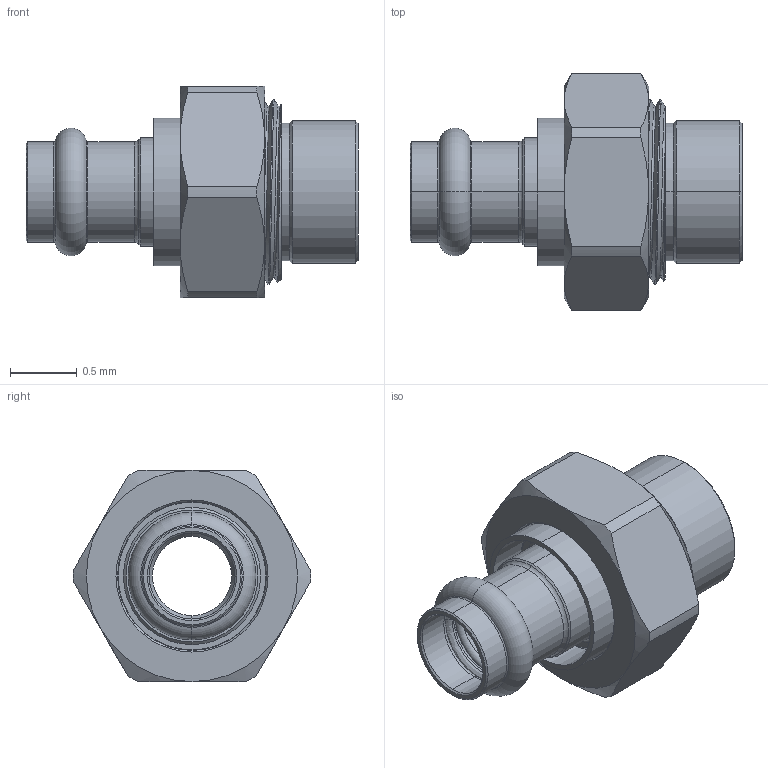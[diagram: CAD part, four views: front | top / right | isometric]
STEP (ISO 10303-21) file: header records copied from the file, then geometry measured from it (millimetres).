
FILE_DESCRIPTION(('Open CASCADE Model'),'2;1');
FILE_NAME('Open CASCADE Shape Model','2022-06-28T09:09:47',('Author'),( 'Open CASCADE'),'Open CASCADE STEP processor 7.3','Open CASCADE 7.3' ,'Unknown');
FILE_SCHEMA(('AUTOMOTIVE_DESIGN { 1 0 10303 214 1 1 1 1 }'));
Length unit declared in the file: millimetre
Products named in the file (7): Open CASCADE STEP translator 7.3 1; Open CASCADE STEP translator 7.3 1.1; Open CASCADE STEP translator 7.3 1.2; Open CASCADE STEP translator 7.3 1.3; Open CASCADE STEP translator 7.3 1.4; Open CASCADE STEP translator 7.3 1.5; Open CASCADE STEP translator 7.3 1.6
Assembly tree (6 placements, depth 2):
  Open CASCADE STEP translator 7.3 1
    Open CASCADE STEP translator 7.3 1.1
    Open CASCADE STEP translator 7.3 1.2
    Open CASCADE STEP translator 7.3 1.3
    Open CASCADE STEP translator 7.3 1.4
    Open CASCADE STEP translator 7.3 1.5
    Open CASCADE STEP translator 7.3 1.6
Bounding box: 2.48 x 1.77 x 1.58 mm (x, y, z)
Volume: 1.7 mm3; surface area: 35 mm2
Topology: 6 solids, 6 shells, 192 faces, 447 edges, 273 vertices
Faces by surface type: cone 70, cylinder 67, plane 26, torus 16, bspline 13
Entity records: 32297 total; most frequent: CARTESIAN_POINT 23770, DIRECTION 1437, ORIENTED_EDGE 894, PCURVE 894, DEFINITIONAL_REPRESENTATION 894, LINE 650, VECTOR 650, EDGE_CURVE 447
